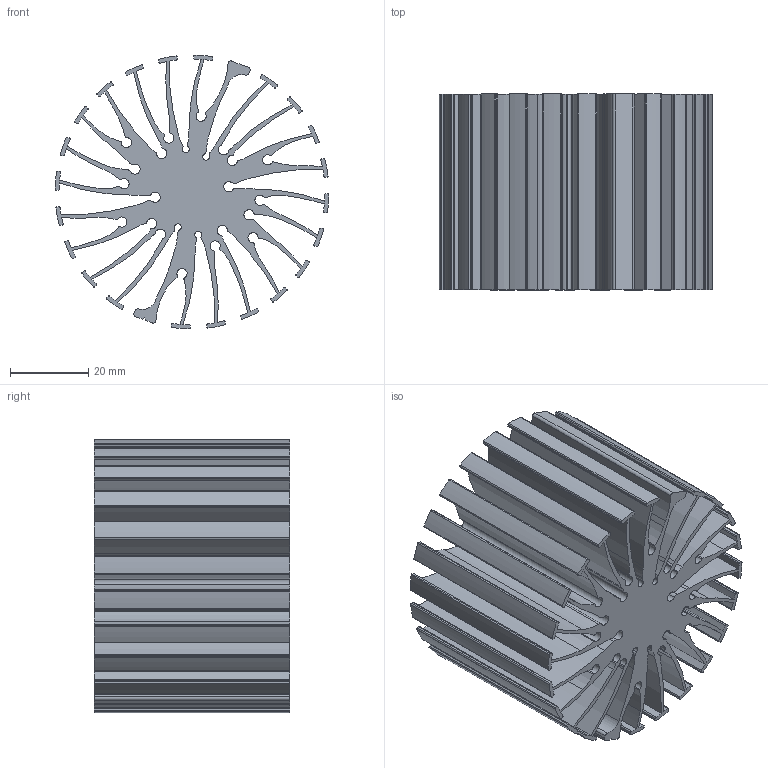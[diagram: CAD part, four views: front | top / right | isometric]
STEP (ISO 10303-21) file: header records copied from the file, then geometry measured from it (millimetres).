
FILE_DESCRIPTION (( 'STEP AP203' ), '1' );
FILE_NAME ('XSA-212.STEP', '2014-04-02T09:00:52', ( '' ), ( '' ), 'SwSTEP 2.0', 'SolidWorks 2013', '' );
FILE_SCHEMA (( 'CONFIG_CONTROL_DESIGN' ));
Length unit declared in the file: millimetre
Products named in the file (1): XSA-212
Bounding box: 69.99 x 50 x 69.99 mm (x, y, z)
Volume: 69497.6 mm3; surface area: 66918.5 mm2
Topology: 1 solids, 1 shells, 396 faces, 1182 edges, 788 vertices
Faces by surface type: cylinder 331, plane 65
Entity records: 13765 total; most frequent: DIRECTION 2638, CARTESIAN_POINT 2367, ORIENTED_EDGE 2364, EDGE_CURVE 1182, AXIS2_PLACEMENT_3D 1059, VERTEX_POINT 788, CIRCLE 662, LINE 520
